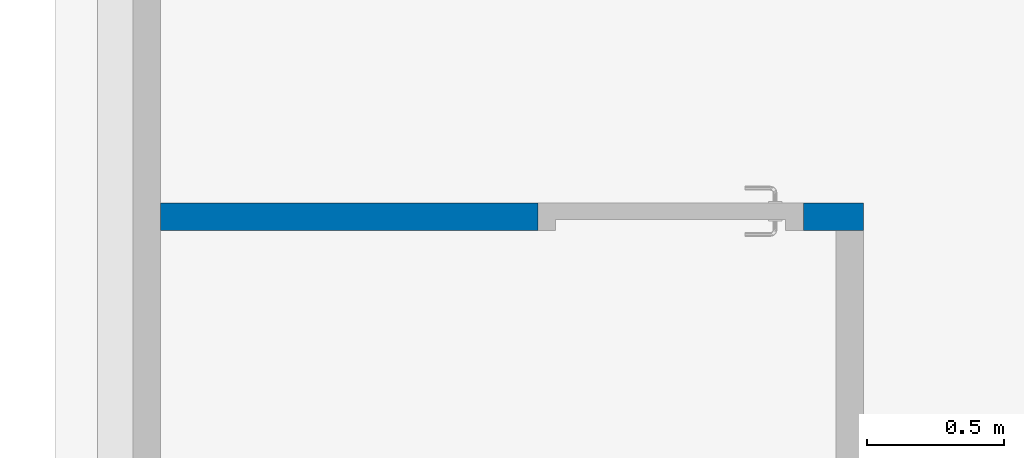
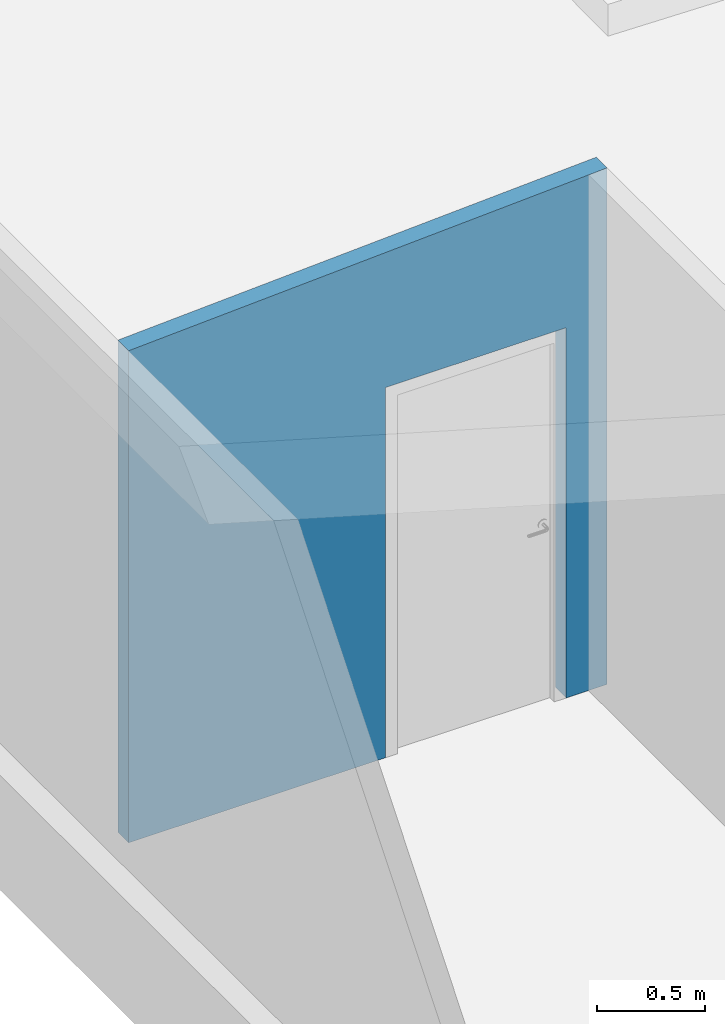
# One storey, part 141 of 301: 1 wall, 1 opening.
"""IFC2X3 building model written with IfcOpenShell, lengths in millimetres."""

from ifc_helpers import new_model, entity, si_unit, converted_unit, derived_unit, money_unit, direction, frame, origin_with_axes, place, context, subcontext, project, spatial, faceted_brep, material, type_object, element, save


model = new_model("IFC2X3")

# Units and contexts
model_context = context("Model", 3, precision=0.01, world=origin_with_axes(), true_north=direction((0.0, 1.0)))
body_context = subcontext(model_context, "Body", "Model", "MODEL_VIEW")
ifc_project = project(units=[si_unit("LENGTHUNIT", "METRE", prefix="MILLI"), si_unit("AREAUNIT", "SQUARE_METRE"), si_unit("VOLUMEUNIT", "CUBIC_METRE"), converted_unit("PLANEANGLEUNIT", "DEGREE", entity("IfcPlaneAngleMeasure", 0.0174532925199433), si_unit("PLANEANGLEUNIT", "RADIAN"), dimensions=[0, 0, 0, 0, 0, 0, 0]), money_unit("EUR"), converted_unit("TIMEUNIT", "Year", entity("IfcTimeMeasure", 31557600.0), si_unit("TIMEUNIT", "SECOND"), dimensions=[0, 0, 1, 0, 0, 0, 0]), si_unit("MASSUNIT", "GRAM", prefix="KILO"), si_unit("THERMODYNAMICTEMPERATUREUNIT", "DEGREE_CELSIUS"), si_unit("LUMINOUSINTENSITYUNIT", "LUMEN"), si_unit("ENERGYUNIT", "JOULE", prefix="MEGA"), derived_unit("THERMALCONDUCTANCEUNIT", [(si_unit("POWERUNIT", "WATT"), 1), (si_unit("LENGTHUNIT", "METRE"), -1), (si_unit("THERMODYNAMICTEMPERATUREUNIT", "KELVIN"), -1)]), derived_unit("SPECIFICHEATCAPACITYUNIT", [(si_unit("ENERGYUNIT", "JOULE"), 1), (si_unit("MASSUNIT", "GRAM", prefix="KILO"), -1), (si_unit("THERMODYNAMICTEMPERATUREUNIT", "KELVIN"), -1)]), derived_unit("MASSDENSITYUNIT", [(si_unit("MASSUNIT", "GRAM", prefix="KILO"), 1), (si_unit("VOLUMEUNIT", "CUBIC_METRE"), -1)])], contexts=[model_context])

# Site, building, storey
site_placement = place(None, frame((0.0, 0.0, 8650.0), z_axis=(0.0, 0.0, 1.0), x_axis=(1.0, 0.0, 0.0)))
site = spatial("IfcSite", under=ifc_project, at=site_placement, Name="43301:001:0844", CompositionType="ELEMENT")
building_placement = place(site_placement, origin_with_axes())
building = spatial("IfcBuilding", under=site, at=building_placement, Name="Kuressaare Ametikooli tuulikute mehaanikute õppekorpus", CompositionType="ELEMENT")
storey_placement = place(building_placement, origin_with_axes())
storey = spatial("IfcBuildingStorey", under=building, at=storey_placement, Name="1.korrus", CompositionType="ELEMENT", Elevation=0.0)

# Wall, opening
ifc_material = material(Name="GENEERILINE - KONSTRUKTRIOON")
wall_type = type_object("IfcWallType", Name="GENEERILINE - KONSTRUKTRIOON 100", PredefinedType="NOTDEFINED")
wall_placement = place(storey_placement, frame((84558.83836746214, 67118.1812233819, -330.0), z_axis=(0.0, 0.0, 1.0), x_axis=(-1.0, 0.0, 0.0)))
wall = element("IfcWall", 1, at=wall_placement, inside=storey, type_object=wall_type, material=ifc_material, Name="SS-XX", context=body_context, shape_type="Brep", body=[
    faceted_brep([(1189.423738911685, 0.0, 2100.0), (1189.423738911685, 0.0, 0.0), (2566.969859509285, 0.0, 0.0), (2566.969859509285, 0.0, 2790.647156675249), (0.0, 0.0, 2929.667733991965), (0.0, 0.0, 0.0), (219.4237389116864, 0.0, 0.0), (219.4237389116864, 0.0, 2100.0), (1189.423738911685, 99.99999999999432, 2100.0), (1189.423738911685, 99.99999999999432, 0.0), (2566.969859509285, 99.99999999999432, 0.0), (2566.969859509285, 99.99999999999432, 2790.621658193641), (0.0, 99.99999999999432, 2929.642235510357), (0.0, 99.99999999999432, 0.0), (219.4237389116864, 99.99999999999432, 0.0), (219.4237389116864, 99.99999999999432, 2100.0)], [[[0, 1, 2, 3, 4, 5, 6, 7]], [[1, 0, 8, 9]], [[1, 9, 10, 2]], [[10, 11, 3, 2]], [[12, 4, 3, 11]], [[13, 5, 4, 12]], [[14, 6, 5, 13]], [[7, 6, 14, 15]], [[0, 7, 15, 8]], [[15, 14, 13, 12, 11, 10, 9, 8]]]),
])
opening_placement = place(wall_placement, frame((704.4237389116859, 0.0, 0.0), z_axis=(0.0, 0.0, 1.0), x_axis=(1.0, 0.0, 0.0)))
element("IfcOpeningElement", 2, at=opening_placement, cuts=wall, Name="SU-XX", context=body_context, shape_type="Brep", body=[
    faceted_brep([(484.9999999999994, 100.9999999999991, 2100.0), (484.9999999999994, 100.9999999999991, 0.0), (-484.9999999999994, 100.9999999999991, 0.0), (-484.9999999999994, 100.9999999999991, 2100.0), (484.9999999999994, -1.000000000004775, 2100.0), (484.9999999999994, -1.000000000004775, 0.0), (-484.9999999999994, -1.000000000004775, 0.0), (-484.9999999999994, -1.000000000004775, 2100.0)], [[[0, 1, 2, 3]], [[4, 5, 1, 0]], [[5, 6, 2, 1]], [[6, 7, 3, 2]], [[7, 4, 0, 3]], [[6, 5, 4, 7]]]),
])

save(model, "model.ifc")
